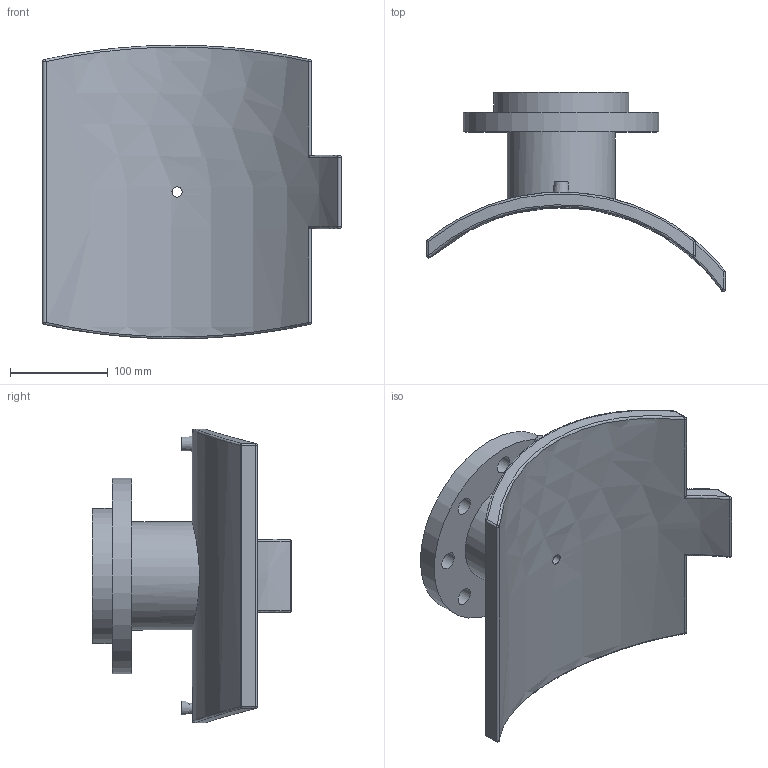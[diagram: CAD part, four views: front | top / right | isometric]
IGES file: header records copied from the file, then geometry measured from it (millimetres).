
Global section: file name: 495804400090T.ipt; native system: Autodesk Inventor 2015; preprocessor: unknown; author: KIM; date: 20171106.094356; units: millimetre
Bounding box: 305 x 203.54 x 299.96 mm (x, y, z)
Volume: 2339629.5 mm3; surface area: 325355.2 mm2
Topology: 2 solids, 2 shells, 75 faces, 156 edges, 95 vertices
Faces by surface type: cylinder 24, revolution 17, plane 16, sphere 12, bspline 4, cone 2
Full cylindrical faces by diameter (mm): 4 x2, 16 x1, 110.4 x1, 138 x1, 200 x1
